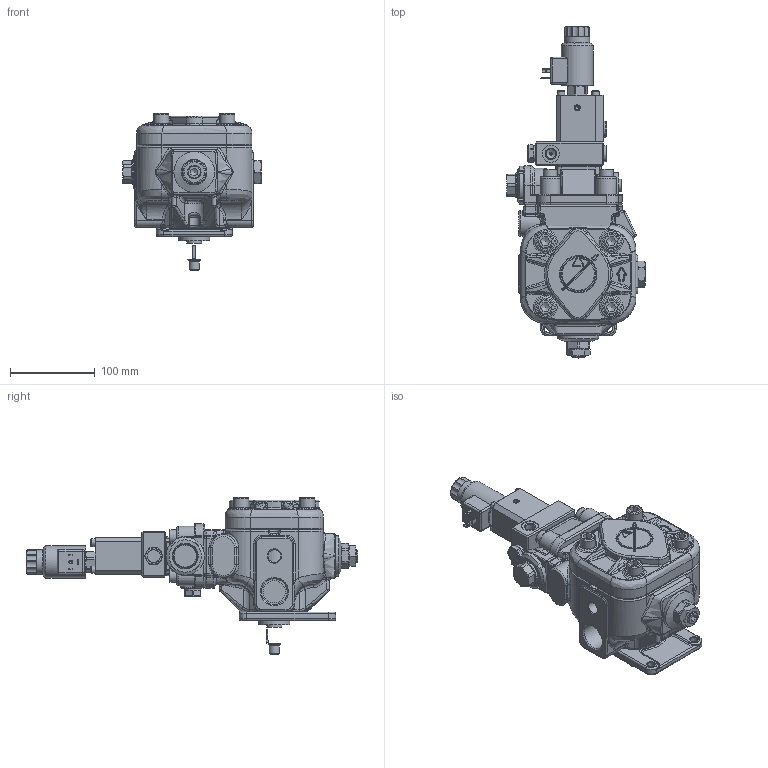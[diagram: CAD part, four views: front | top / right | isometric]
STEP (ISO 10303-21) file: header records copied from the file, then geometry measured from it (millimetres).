
FILE_DESCRIPTION(/* description */ (''),/* implementation_level */ '2;1');
FILE_NAME(/* name */ 'W:\Tecnico\Archivio\Berarma\Dimensioni Pompe\3D Export\Montaggio 3D semplificato\PLP-PHP 05\PHP05 FGR2HRM PCLS005.stp',/* time_stamp */ '2018-10-10T14:49:53+02:00',/* author */ ('marcop'),/* organization */ (''),/* preprocessor_version */ 'ST-DEVELOPER v17',/* originating_system */ 'Autodesk Inventor 2018',/* authorisation */ '');
FILE_SCHEMA (('AUTOMOTIVE_DESIGN { 1 0 10303 214 3 1 1 }'));
Length unit declared in the file: millimetre
Products named in the file (1): PHP05_Shrinkwrap_1
Bounding box: 163.3 x 391.15 x 185 mm (x, y, z)
Volume: 2352328.4 mm3; surface area: 254260.4 mm2
Topology: 2 solids, 2 shells, 2286 faces, 5848 edges, 3563 vertices
Faces by surface type: plane 834, cylinder 510, bspline 386, cone 258, torus 239, sphere 59
Full cylindrical faces by diameter (mm): 1.6 x3, 1.7 x4, 2.5 x1, 3 x1, 3.242 x1, 4 x3, 4.3 x1, 5 x7, 6 x2, 6.5 x4, 7.2 x13, 8 x1, 8.5 x8, 9 x8, 9.5 x1, 10.25 x1, 11.049 x1, 11.1 x1, 11.445 x4, 12 x4, 13 x1, 14 x1, 14.5 x1, 14.95 x1, 15 x2, 15.5 x2, 16 x5, 16.376 x1, 16.5 x4, 16.789 x1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
Entity records: 85132 total; most frequent: CARTESIAN_POINT 30035, ORIENTED_EDGE 11480, DIRECTION 10633, EDGE_CURVE 5740, AXIS2_PLACEMENT_3D 4218, VERTEX_POINT 3563, EDGE_LOOP 2472, STYLED_ITEM 2288
